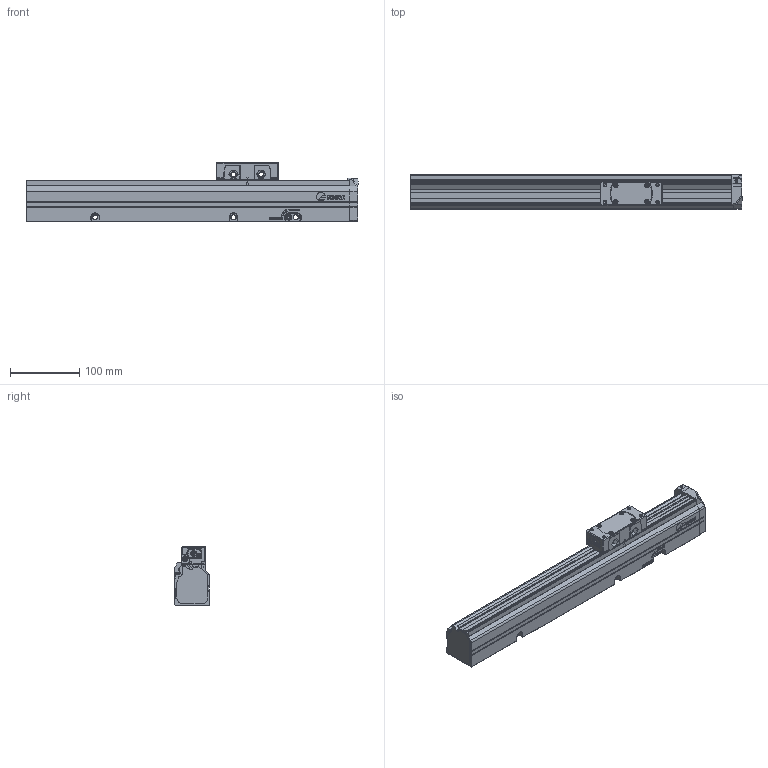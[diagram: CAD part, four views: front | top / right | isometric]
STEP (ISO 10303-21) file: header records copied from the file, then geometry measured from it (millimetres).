
FILE_DESCRIPTION(('Creo Elements/Direct Modeling STEP Export'),'2;1');
FILE_NAME('MOD_L3_L_M.stp','2020-04-10T19:40:09',(''),(''),'PTC Creo Elements/Direct Modeling STEP processor for AP214 (Solid Model)','PTC Creo Elements/Direct Modeling 19.0E 27-Jun-2016 (C) Parametric Technology GmbH','');
FILE_SCHEMA(('AUTOMOTIVE_DESIGN { 1 0 10303 214 1 1 1 1 }'));
Length unit declared in the file: millimetre
Products named in the file (6): MOD_L3_L_M; MOD_L3_L_M.stp; CABEZA_L3_M8
Assembly tree (5 placements, depth 4):
  MOD_L3_L_M.stp
    CABEZA_L3_M8
      CABEZA_L3_M8
    MOD_L3_L_M.stp
      MOD_L3_L_M
        MOD_L3_L_M
Bounding box: 480 x 50 x 85 mm (x, y, z)
Volume: 1317126 mm3; surface area: 146277.4 mm2
Topology: 2 solids, 8 shells, 1150 faces, 3329 edges, 2264 vertices
Faces by surface type: plane 548, cylinder 385, cone 115, bspline 59, torus 37, extrusion 6
Entity records: 54838 total; most frequent: CARTESIAN_POINT 20278, ORIENTED_EDGE 6622, DIRECTION 5669, EDGE_CURVE 3311, VERTEX_POINT 2264, VECTOR 2033, LINE 2027, AXIS2_PLACEMENT_3D 1818
